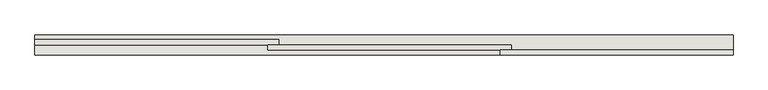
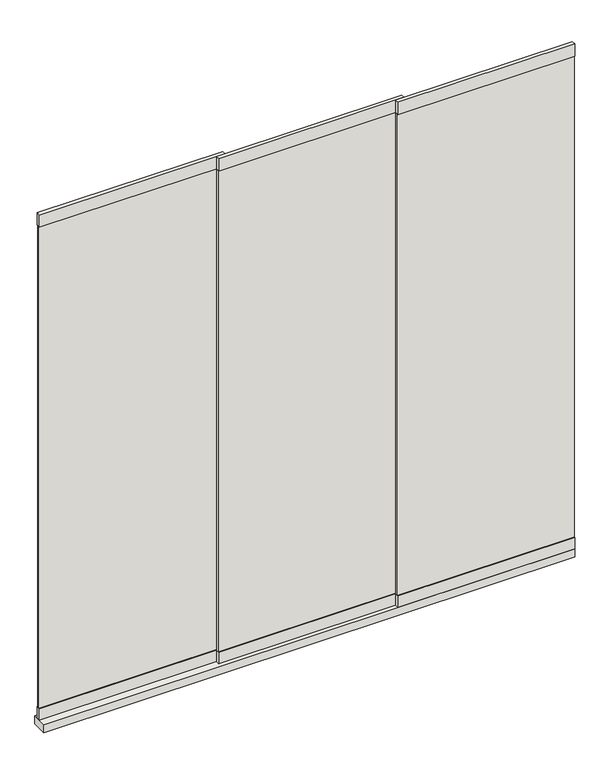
"""IFC4 building model written with IfcOpenShell, lengths in millimetres: wall geometry, Renson_Camargue_Glass_Sliding_Panel : Renson_Camargue_Glass_Sliding_Panel."""

import ifcopenshell
import ifcopenshell.guid

model = None  # the IFC model being written
_history = None  # IfcOwnerHistory: only IFC2X3 demands one
_inside = {}  # id of a spatial element -> (the spatial element, [elements in it])
_under = {}  # id of a project, library or spatial element -> (it, [spatial elements below it])
_declared = {}  # id of a project -> (the project, [libraries it declares])
_typed = {}  # id of a type object -> (the type object, [elements of that type])
_made_of = {}  # id of a material, layer set ... -> (it, [elements and type objects made of it])


def new_model(schema):
    """Start an empty IFC model of exactly this schema.

    Asked for "IFC4X3", IfcOpenShell would pick the latest addendum, in which some entities
    have other attributes; the version numbers below select the first issue.
    IFC2X3 requires an IfcOwnerHistory on every rooted entity: one is made here for all.
    """
    global model, _history
    if schema == "IFC4X3":
        model = ifcopenshell.file(schema_version=(4, 3, 0, 0))
    else:
        model = ifcopenshell.file(schema=schema)
    _inside.clear()
    _under.clear()
    _declared.clear()
    _typed.clear()
    _made_of.clear()
    _history = None
    if model.schema == "IFC2X3":
        org = make("IfcOrganization", Name="unknown")
        user = make(
            "IfcPersonAndOrganization",
            ThePerson=make("IfcPerson", FamilyName="unknown"),
            TheOrganization=org,
        )
        app = make(
            "IfcApplication",
            ApplicationDeveloper=org,
            Version="unknown",
            ApplicationFullName="unknown",
            ApplicationIdentifier="unknown",
        )
        _history = make(
            "IfcOwnerHistory",
            OwningUser=user,
            OwningApplication=app,
            ChangeAction="ADDED",
            CreationDate=0,
        )
    return model


def make(cls, **values):
    """One entity of the class cls with the attributes given. An attribute that is None is left unset."""
    return model.create_entity(
        cls, **{name: value for name, value in values.items() if value is not None}
    )


def rooted(cls, **values):
    """An entity with a GlobalId (a new one), such as an element, a storey or a relation."""
    return make(cls, GlobalId=ifcopenshell.guid.new(), OwnerHistory=_history, **values)


def si_unit(unit_type, name, prefix=None):
    """IfcSIUnit, for example si_unit("LENGTHUNIT", "METRE", prefix="MILLI")."""
    return make("IfcSIUnit", UnitType=unit_type, Prefix=prefix, Name=name)


def assignment(units):
    """IfcUnitAssignment: the units of a project."""
    return None if units is None else make("IfcUnitAssignment", Units=units)


def point(xyz):
    """IfcCartesianPoint."""
    return None if xyz is None else make("IfcCartesianPoint", Coordinates=xyz)


def direction(xyz):
    """IfcDirection."""
    return None if xyz is None else make("IfcDirection", DirectionRatios=xyz)


def frame(location, z_axis=None, x_axis=None):
    """IfcAxis2Placement3D, a coordinate frame: its origin and axes. An axis left out is left unset."""
    return make(
        "IfcAxis2Placement3D",
        Location=point(location),
        Axis=direction(z_axis),
        RefDirection=direction(x_axis),
    )


def origin():
    """The frame at (0, 0, 0) with its axes left unset."""
    return frame((0.0, 0.0, 0.0))


def origin_with_axes():
    """The frame at (0, 0, 0) with the z axis (0, 0, 1) and the x axis (1, 0, 0) written out."""
    return frame((0.0, 0.0, 0.0), z_axis=(0.0, 0.0, 1.0), x_axis=(1.0, 0.0, 0.0))


def place(relative_to, where):
    """IfcLocalPlacement: puts the frame where relative to a parent placement (None: the world)."""
    return make(
        "IfcLocalPlacement", PlacementRelTo=relative_to, RelativePlacement=where
    )


def context(
    kind, dimensions, precision=None, world=None, true_north=None, identifier=None
):
    """IfcGeometricRepresentationContext, for example the 3D "Model" context."""
    return make(
        "IfcGeometricRepresentationContext",
        ContextIdentifier=identifier,
        ContextType=kind,
        CoordinateSpaceDimension=dimensions,
        Precision=precision,
        WorldCoordinateSystem=world,
        TrueNorth=true_north,
    )


def project(units=None, contexts=None):
    """IfcProject with its units and contexts."""
    return rooted(
        "IfcProject",
        Name="project",
        RepresentationContexts=contexts,
        UnitsInContext=assignment(units),
    )


def spatial(cls, under=None, at=None, **own):
    """A site, building, storey or space (cls), placed at a placement, below another one or the project."""
    s = rooted(cls, ObjectPlacement=at, **own)
    if under is not None:
        _under.setdefault(under.id(), (under, []))[1].append(s)
    return s


def polyline(points):
    """IfcPolyline through the points."""
    return make("IfcPolyline", Points=[point(p) for p in points])


def outline(outer, holes=None, kind="AREA"):
    """IfcArbitraryClosedProfileDef: a profile drawn as a closed curve; with holes, ...WithVoids."""
    if holes is None:
        return make("IfcArbitraryClosedProfileDef", ProfileType=kind, OuterCurve=outer)
    return make(
        "IfcArbitraryProfileDefWithVoids",
        ProfileType=kind,
        OuterCurve=outer,
        InnerCurves=holes,
    )


def extrude(swept, where, along, depth):
    """IfcExtrudedAreaSolid: the profile swept, set in the frame where, extruded along a direction by depth."""
    return make(
        "IfcExtrudedAreaSolid",
        SweptArea=swept,
        Position=where,
        ExtrudedDirection=direction(along),
        Depth=depth,
    )


def shape(context_of_items, identifier, shape_type, items):
    """IfcShapeRepresentation: the items that make up one representation, for example the "Body"."""
    return make(
        "IfcShapeRepresentation",
        ContextOfItems=context_of_items,
        RepresentationIdentifier=identifier,
        RepresentationType=shape_type,
        Items=items,
    )


def source(mapping_origin, context_of_items, identifier, shape_type, items):
    """IfcRepresentationMap: a shape defined once, which mapped items show again and again."""
    return make(
        "IfcRepresentationMap",
        MappingOrigin=mapping_origin,
        MappedRepresentation=shape(context_of_items, identifier, shape_type, items),
    )


def transform(
    local_origin,
    x_axis=None,
    y_axis=None,
    z_axis=None,
    scale=None,
    scale2=None,
    scale3=None,
    uniform=True,
):
    """IfcCartesianTransformationOperator3D, or its non-uniform kind. x_axis, y_axis, z_axis: its Axis1, 2, 3."""
    if uniform:
        return make(
            "IfcCartesianTransformationOperator3D",
            Axis1=direction(x_axis),
            Axis2=direction(y_axis),
            LocalOrigin=point(local_origin),
            Scale=scale,
            Axis3=direction(z_axis),
        )
    return make(
        "IfcCartesianTransformationOperator3DnonUniform",
        Axis1=direction(x_axis),
        Axis2=direction(y_axis),
        LocalOrigin=point(local_origin),
        Scale=scale,
        Axis3=direction(z_axis),
        Scale2=scale2,
        Scale3=scale3,
    )


def mapped(mapping_source, mapping_target):
    """IfcMappedItem: shows the shape of a source again, moved by a transform."""
    return make(
        "IfcMappedItem", MappingSource=mapping_source, MappingTarget=mapping_target
    )


def made_of(thing, what):
    """Note that an element or type object is made of a material, layer set ...; save() writes the relation."""
    if what is not None:
        _made_of.setdefault(what.id(), (what, []))[1].append(thing)
    return thing


def element(
    cls,
    number,
    at=None,
    inside=None,
    cuts=None,
    type_object=None,
    material=None,
    context=None,
    identifier="Body",
    shape_type=None,
    held_by="IfcProductDefinitionShape",
    body=None,
    shapes=None,
    **own,
):
    """One element of the class cls, such as IfcWall. Its Tag is "e" and its number.

    at: its placement. inside: the storey or other place that contains it. cuts: it is an
    opening in that element (IfcRelVoidsElement). A single representation is given by context,
    identifier, shape_type and body (its items); several are given by shapes. held_by: the class
    of the entity that holds the representations. save() writes the other relations.
    """
    e = rooted(cls, Tag="e%d" % number, ObjectPlacement=at, **own)
    if body is not None:
        shapes = [shape(context, identifier, shape_type, body)]
    if shapes is not None:
        e.Representation = make(held_by, Representations=shapes)
    if inside is not None:
        _inside.setdefault(inside.id(), (inside, []))[1].append(e)
    if cuts is not None:
        rooted(
            "IfcRelVoidsElement", RelatingBuildingElement=cuts, RelatedOpeningElement=e
        )
    if type_object is not None:
        _typed.setdefault(type_object.id(), (type_object, []))[1].append(e)
    return made_of(e, material)


def aggregate(whole, parts):
    """IfcRelAggregates: a whole, such as a stair, and the parts it consists of."""
    return rooted("IfcRelAggregates", RelatingObject=whole, RelatedObjects=parts)


def save(model, path):
    """Write the relations noted so far, then the file.

    IfcRelAggregates (storeys below a building ...), IfcRelContainedInSpatialStructure (elements
    in a storey), IfcRelDefinesByType, IfcRelAssociatesMaterial and IfcRelDeclares: one each for
    every whole, place, type object, material and project.
    """
    for whole, parts in _under.values():
        aggregate(whole, parts)
    for where, things in _inside.values():
        rooted(
            "IfcRelContainedInSpatialStructure",
            RelatedElements=things,
            RelatingStructure=where,
        )
    for kind, things in _typed.values():
        rooted("IfcRelDefinesByType", RelatedObjects=things, RelatingType=kind)
    for what, things in _made_of.values():
        rooted("IfcRelAssociatesMaterial", RelatedObjects=things, RelatingMaterial=what)
    for by, libraries in _declared.values():
        rooted("IfcRelDeclares", RelatingContext=by, RelatedDefinitions=libraries)
    model.write(path)


def wall_f2b27461(model_context):
    return source(origin(), model_context, "Body", "SweptSolid", [
        extrude(outline(polyline([(750.0, 0.0), (-1450.0, 0.0), (-1450.0, 64.0), (750.0, 64.0), (750.0, 0.0)])), origin_with_axes(), (0.0, 0.0, 1.0), 35.0),
        extrude(outline(polyline([(750.0, 3.0), (16.6666667, 3.0), (16.6666667, 13.0), (750.0, 13.0), (750.0, 3.0)])), frame((0.0, 0.0, 86.0), z_axis=(0.0, 0.0, 1.0), x_axis=(1.0, 0.0, 0.0)), (0.0, 0.0, 1.0), 2110.0),
        extrude(outline(polyline([(51.6666667, 19.0), (-716.6666667, 19.0), (-716.6666667, 29.0), (51.6666667, 29.0), (51.6666667, 19.0)])), frame((0.0, 0.0, 86.0), z_axis=(0.0, 0.0, 1.0), x_axis=(1.0, 0.0, 0.0)), (0.0, 0.0, 1.0), 2110.0),
        extrude(outline(polyline([(-681.6666667, 35.0), (-1450.0, 35.0), (-1450.0, 45.0), (-681.6666667, 45.0), (-681.6666667, 35.0)])), frame((0.0, 0.0, 86.0), z_axis=(0.0, 0.0, 1.0), x_axis=(1.0, 0.0, 0.0)), (0.0, 0.0, 1.0), 2110.0),
        extrude(outline(polyline([(750.0, 0.0), (16.6666667, 0.0), (16.6666667, 16.0), (750.0, 16.0), (750.0, 0.0)])), frame((0.0, 0.0, 2196.0), z_axis=(0.0, 0.0, 1.0), x_axis=(1.0, 0.0, 0.0)), (0.0, 0.0, 1.0), 54.0),
        extrude(outline(polyline([(51.6666667, 16.0), (-716.6666667, 16.0), (-716.6666667, 32.0), (51.6666667, 32.0), (51.6666667, 16.0)])), frame((0.0, 0.0, 2196.0), z_axis=(0.0, 0.0, 1.0), x_axis=(1.0, 0.0, 0.0)), (0.0, 0.0, 1.0), 54.0),
        extrude(outline(polyline([(-681.6666667, 32.0), (-1450.0, 32.0), (-1450.0, 48.0), (-681.6666667, 48.0), (-681.6666667, 32.0)])), frame((0.0, 0.0, 2196.0), z_axis=(0.0, 0.0, 1.0), x_axis=(1.0, 0.0, 0.0)), (0.0, 0.0, 1.0), 54.0),
        extrude(outline(polyline([(750.0, 0.0), (16.6666667, 0.0), (16.6666667, 16.0), (750.0, 16.0), (750.0, 0.0)])), frame((0.0, 0.0, 35.0), z_axis=(0.0, 0.0, 1.0), x_axis=(1.0, 0.0, 0.0)), (0.0, 0.0, 1.0), 51.0),
        extrude(outline(polyline([(51.6666667, 16.0), (-716.6666667, 16.0), (-716.6666667, 32.0), (51.6666667, 32.0), (51.6666667, 16.0)])), frame((0.0, 0.0, 35.0), z_axis=(0.0, 0.0, 1.0), x_axis=(1.0, 0.0, 0.0)), (0.0, 0.0, 1.0), 51.0),
        extrude(outline(polyline([(-681.6666667, 32.0), (-1450.0, 32.0), (-1450.0, 48.0), (-681.6666667, 48.0), (-681.6666667, 32.0)])), frame((0.0, 0.0, 35.0), z_axis=(0.0, 0.0, 1.0), x_axis=(1.0, 0.0, 0.0)), (0.0, 0.0, 1.0), 51.0),
    ])


if __name__ == "__main__":
    model = new_model("IFC4")
    model_context = context("Model", 3, world=origin())
    ifc_project = project(units=[si_unit("LENGTHUNIT", "METRE", prefix="MILLI")], contexts=[model_context])
    site = spatial("IfcSite", under=ifc_project)
    building = spatial("IfcBuilding", under=site)
    placement = place(None, origin())
    wall_shape = wall_f2b27461(model_context)
    element("IfcWall", 1, ObjectType="Renson_Camargue_Glass_Sliding_Panel : Renson_Camargue_Glass_Sliding_Panel", at=placement, inside=building, context=model_context, shape_type="MappedRepresentation", body=[
        mapped(wall_shape, transform((0.0, 0.0, 0.0), x_axis=(1.0, 0.0, 0.0), y_axis=(0.0, 1.0, 0.0), z_axis=(0.0, 0.0, 1.0))),
    ])
    save(model, "model.ifc")
